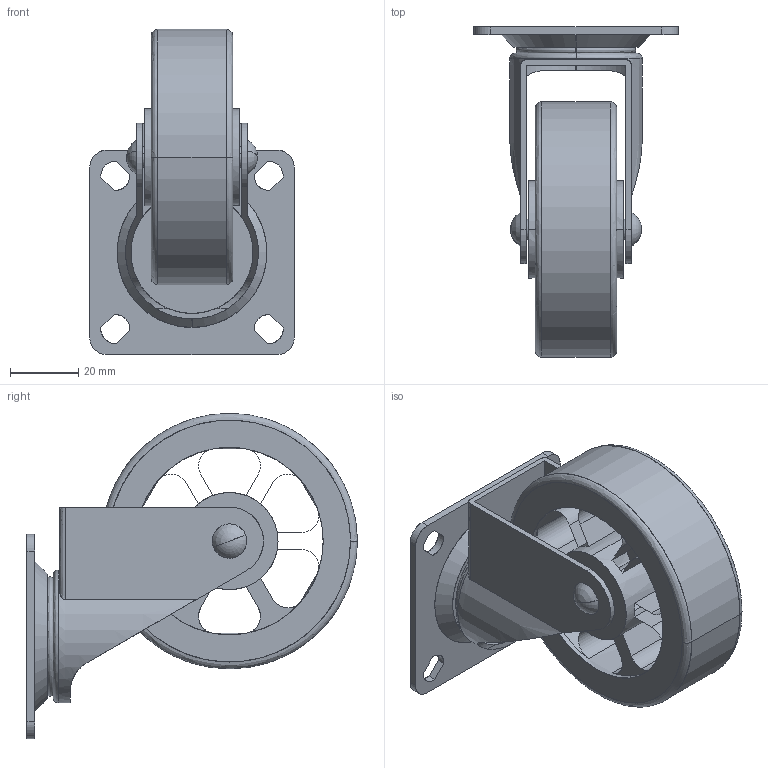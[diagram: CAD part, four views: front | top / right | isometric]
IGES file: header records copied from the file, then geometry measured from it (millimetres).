
Start section: SolidWorks IGES file using analytic representation for surfaces
Bounding box: 60 x 97 x 95.5 mm (x, y, z)
Surface area: 41186.6 mm2 (no closed solid volume)
Topology: 0 solids, 0 shells, 126 faces, 2418 edges, 2416 vertices
Faces by surface type: bspline 66, revolution 60
